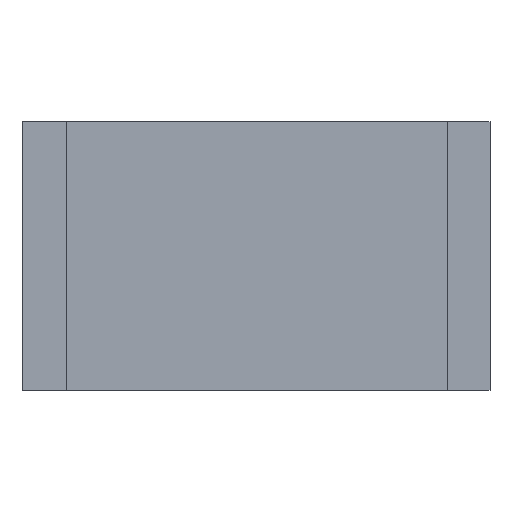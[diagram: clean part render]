
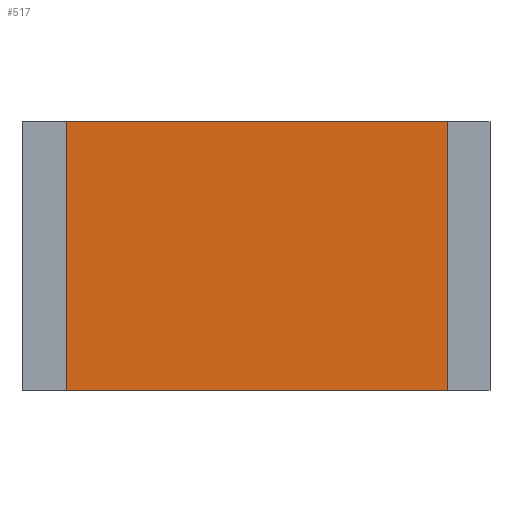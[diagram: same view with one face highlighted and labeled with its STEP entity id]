
A CAD part, front view. The second image highlights one B-rep face of the part: STEP entity #517.
In plain terms, the highlighted planar face has unit normal (0, -1, 0).
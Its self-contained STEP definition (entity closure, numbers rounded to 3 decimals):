
#72 = PLANE('',#73);
#73 = AXIS2_PLACEMENT_3D('',#74,#75,#76);
#74 = CARTESIAN_POINT('',(-0.036,0.013,15.5));
#75 = DIRECTION('',(0.,0.,1.));
#76 = DIRECTION('',(1.,0.,0.));
#126 = PLANE('',#127);
#127 = AXIS2_PLACEMENT_3D('',#128,#129,#130);
#128 = CARTESIAN_POINT('',(-0.036,0.013,0.));
#129 = DIRECTION('',(0.,0.,1.));
#130 = DIRECTION('',(1.,0.,0.));
#409 = PLANE('',#410);
#410 = AXIS2_PLACEMENT_3D('',#411,#412,#413);
#411 = CARTESIAN_POINT('',(10.993,-9.65,0.));
#412 = DIRECTION('',(1.,0.,0.));
#413 = DIRECTION('',(0.,-1.,0.));
#447 = VERTEX_POINT('',#448);
#448 = CARTESIAN_POINT('',(10.993,-14.2,15.5));
#469 = EDGE_CURVE('',#470,#447,#472,.T.);
#470 = VERTEX_POINT('',#471);
#471 = CARTESIAN_POINT('',(10.993,-14.2,0.));
#472 = SURFACE_CURVE('',#473,(#477,#484),.PCURVE_S1.);
#473 = LINE('',#474,#475);
#474 = CARTESIAN_POINT('',(10.993,-14.2,0.));
#475 = VECTOR('',#476,1.);
#476 = DIRECTION('',(0.,0.,1.));
#477 = PCURVE('',#409,#478);
#478 = DEFINITIONAL_REPRESENTATION('',(#479),#483);
#479 = LINE('',#480,#481);
#480 = CARTESIAN_POINT('',(4.55,0.));
#481 = VECTOR('',#482,1.);
#482 = DIRECTION('',(0.,-1.));
#483 = ( GEOMETRIC_REPRESENTATION_CONTEXT(2) 
PARAMETRIC_REPRESENTATION_CONTEXT() REPRESENTATION_CONTEXT('2D SPACE',''
  ) );
#484 = PCURVE('',#485,#490);
#485 = PLANE('',#486);
#486 = AXIS2_PLACEMENT_3D('',#487,#488,#489);
#487 = CARTESIAN_POINT('',(10.993,-14.2,0.));
#488 = DIRECTION('',(0.,-1.,0.));
#489 = DIRECTION('',(-1.,0.,0.));
#490 = DEFINITIONAL_REPRESENTATION('',(#491),#495);
#491 = LINE('',#492,#493);
#492 = CARTESIAN_POINT('',(0.,-0.));
#493 = VECTOR('',#494,1.);
#494 = DIRECTION('',(0.,-1.));
#495 = ( GEOMETRIC_REPRESENTATION_CONTEXT(2) 
PARAMETRIC_REPRESENTATION_CONTEXT() REPRESENTATION_CONTEXT('2D SPACE',''
  ) );
#517 = ADVANCED_FACE('',(#518),#485,.T.);
#518 = FACE_BOUND('',#519,.T.);
#519 = EDGE_LOOP('',(#520,#521,#544,#572));
#520 = ORIENTED_EDGE('',*,*,#469,.T.);
#521 = ORIENTED_EDGE('',*,*,#522,.T.);
#522 = EDGE_CURVE('',#447,#523,#525,.T.);
#523 = VERTEX_POINT('',#524);
#524 = CARTESIAN_POINT('',(-11.007,-14.2,15.5));
#525 = SURFACE_CURVE('',#526,(#530,#537),.PCURVE_S1.);
#526 = LINE('',#527,#528);
#527 = CARTESIAN_POINT('',(10.993,-14.2,15.5));
#528 = VECTOR('',#529,1.);
#529 = DIRECTION('',(-1.,0.,0.));
#530 = PCURVE('',#485,#531);
#531 = DEFINITIONAL_REPRESENTATION('',(#532),#536);
#532 = LINE('',#533,#534);
#533 = CARTESIAN_POINT('',(0.,-15.5));
#534 = VECTOR('',#535,1.);
#535 = DIRECTION('',(1.,0.));
#536 = ( GEOMETRIC_REPRESENTATION_CONTEXT(2) 
PARAMETRIC_REPRESENTATION_CONTEXT() REPRESENTATION_CONTEXT('2D SPACE',''
  ) );
#537 = PCURVE('',#72,#538);
#538 = DEFINITIONAL_REPRESENTATION('',(#539),#543);
#539 = LINE('',#540,#541);
#540 = CARTESIAN_POINT('',(11.029,-14.213));
#541 = VECTOR('',#542,1.);
#542 = DIRECTION('',(-1.,0.));
#543 = ( GEOMETRIC_REPRESENTATION_CONTEXT(2) 
PARAMETRIC_REPRESENTATION_CONTEXT() REPRESENTATION_CONTEXT('2D SPACE',''
  ) );
#544 = ORIENTED_EDGE('',*,*,#545,.F.);
#545 = EDGE_CURVE('',#546,#523,#548,.T.);
#546 = VERTEX_POINT('',#547);
#547 = CARTESIAN_POINT('',(-11.007,-14.2,0.));
#548 = SURFACE_CURVE('',#549,(#553,#560),.PCURVE_S1.);
#549 = LINE('',#550,#551);
#550 = CARTESIAN_POINT('',(-11.007,-14.2,0.));
#551 = VECTOR('',#552,1.);
#552 = DIRECTION('',(0.,0.,1.));
#553 = PCURVE('',#485,#554);
#554 = DEFINITIONAL_REPRESENTATION('',(#555),#559);
#555 = LINE('',#556,#557);
#556 = CARTESIAN_POINT('',(22.,0.));
#557 = VECTOR('',#558,1.);
#558 = DIRECTION('',(0.,-1.));
#559 = ( GEOMETRIC_REPRESENTATION_CONTEXT(2) 
PARAMETRIC_REPRESENTATION_CONTEXT() REPRESENTATION_CONTEXT('2D SPACE',''
  ) );
#560 = PCURVE('',#561,#566);
#561 = PLANE('',#562);
#562 = AXIS2_PLACEMENT_3D('',#563,#564,#565);
#563 = CARTESIAN_POINT('',(-11.007,-14.2,0.));
#564 = DIRECTION('',(-1.,0.,0.));
#565 = DIRECTION('',(0.,1.,0.));
#566 = DEFINITIONAL_REPRESENTATION('',(#567),#571);
#567 = LINE('',#568,#569);
#568 = CARTESIAN_POINT('',(0.,0.));
#569 = VECTOR('',#570,1.);
#570 = DIRECTION('',(0.,-1.));
#571 = ( GEOMETRIC_REPRESENTATION_CONTEXT(2) 
PARAMETRIC_REPRESENTATION_CONTEXT() REPRESENTATION_CONTEXT('2D SPACE',''
  ) );
#572 = ORIENTED_EDGE('',*,*,#573,.F.);
#573 = EDGE_CURVE('',#470,#546,#574,.T.);
#574 = SURFACE_CURVE('',#575,(#579,#586),.PCURVE_S1.);
#575 = LINE('',#576,#577);
#576 = CARTESIAN_POINT('',(10.993,-14.2,0.));
#577 = VECTOR('',#578,1.);
#578 = DIRECTION('',(-1.,0.,0.));
#579 = PCURVE('',#485,#580);
#580 = DEFINITIONAL_REPRESENTATION('',(#581),#585);
#581 = LINE('',#582,#583);
#582 = CARTESIAN_POINT('',(0.,-0.));
#583 = VECTOR('',#584,1.);
#584 = DIRECTION('',(1.,0.));
#585 = ( GEOMETRIC_REPRESENTATION_CONTEXT(2) 
PARAMETRIC_REPRESENTATION_CONTEXT() REPRESENTATION_CONTEXT('2D SPACE',''
  ) );
#586 = PCURVE('',#126,#587);
#587 = DEFINITIONAL_REPRESENTATION('',(#588),#592);
#588 = LINE('',#589,#590);
#589 = CARTESIAN_POINT('',(11.029,-14.213));
#590 = VECTOR('',#591,1.);
#591 = DIRECTION('',(-1.,0.));
#592 = ( GEOMETRIC_REPRESENTATION_CONTEXT(2) 
PARAMETRIC_REPRESENTATION_CONTEXT() REPRESENTATION_CONTEXT('2D SPACE',''
  ) );
